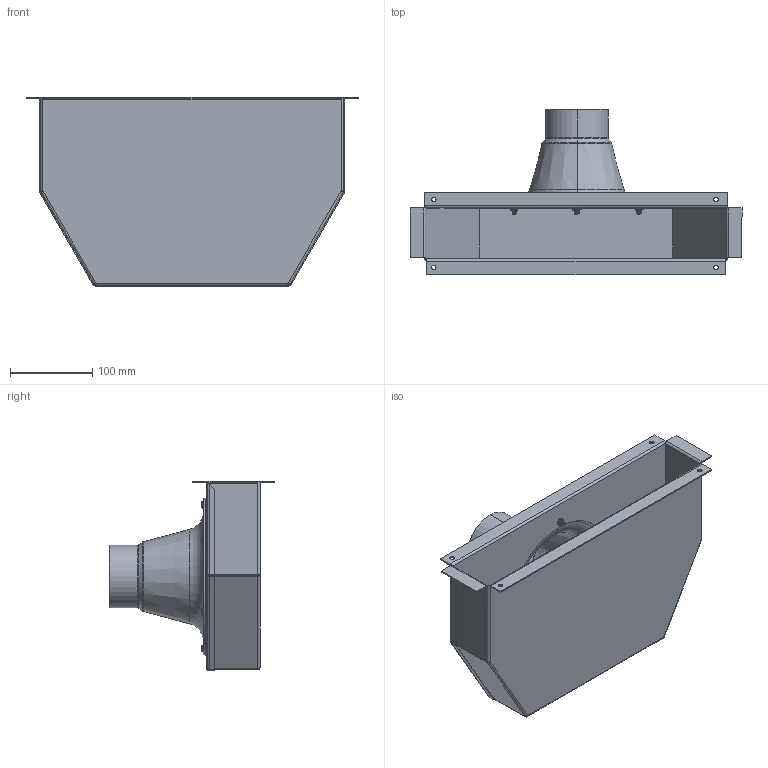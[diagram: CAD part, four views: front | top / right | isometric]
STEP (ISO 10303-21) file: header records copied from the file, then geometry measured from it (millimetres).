
FILE_DESCRIPTION (( 'STEP AP203' ), '1' );
FILE_NAME ('WA-CAASSY-E.STEP', '2023-06-23T14:48:38', ( '' ), ( '' ), 'SwSTEP 2.0', 'SolidWorks 2023', '' );
FILE_SCHEMA (( 'CONFIG_CONTROL_DESIGN' ));
Length unit declared in the file: inch
Products named in the file (7): WA-SMASSY-C; 8-32 x 0.5 Black-Oxide 18-8 Stainless Steel Pan Head Phillips Screws_91249A194; WA-CAGASKET-; WA-SMBOTTOM-B; WA-CAASSY-E; WA-SMTOP-C; WA-RCONE-C
Assembly tree (11 placements, depth 3):
  WA-CAASSY-E
    WA-SMASSY-C
      WA-SMBOTTOM-B
      WA-SMTOP-C
      WA-CAGASKET-
    WA-RCONE-C
    8-32 x 0.5 Black-Oxide 18-8 Stainless Steel Pan Head Phillips Screws_91249A194  x6
Bounding box: 403.4 x 200.93 x 230.1 mm (x, y, z)
Volume: 413858.8 mm3; surface area: 523390.3 mm2
Topology: 16 solids, 16 shells, 1265 faces, 3321 edges, 2103 vertices
Faces by surface type: cylinder 754, plane 255, cone 162, bspline 46, torus 36, sphere 12
Entity records: 25820 total; most frequent: CARTESIAN_POINT 11485, DIRECTION 2832, ORIENTED_EDGE 2814, EDGE_CURVE 1407, AXIS2_PLACEMENT_3D 1081, VERTEX_POINT 838, EDGE_LOOP 681, LINE 670
